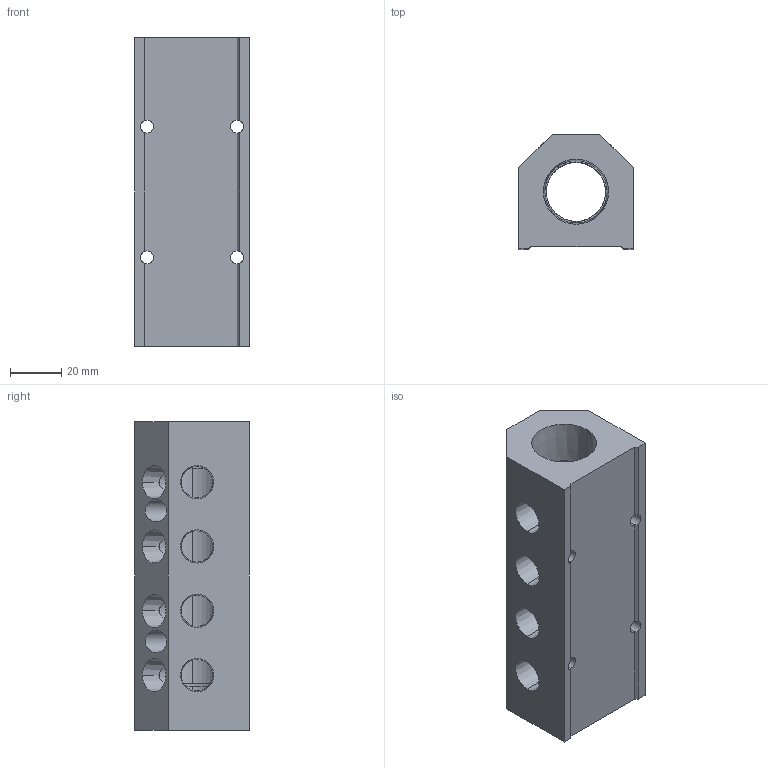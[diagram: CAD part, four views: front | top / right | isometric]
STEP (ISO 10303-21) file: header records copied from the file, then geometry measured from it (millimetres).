
FILE_DESCRIPTION (( 'STEP AP214' ), '1' );
FILE_NAME ('ALM4ABC-N4N12-120R.step', '2022-02-06T14:06:01', ( '' ), ( '' ), 'SwSTEP 2.0', 'SolidWorks 2020', '' );
FILE_SCHEMA (( 'AUTOMOTIVE_DESIGN' ));
Length unit declared in the file: millimetre
Products named in the file (1): ALM4ABC-N4N12-120R
Bounding box: 44.5 x 44.5 x 120 mm (x, y, z)
Volume: 140795 mm3; surface area: 35590.1 mm2
Topology: 1 solids, 1 shells, 337 faces, 932 edges, 618 vertices
Faces by surface type: plane 227, bspline 50, cone 34, cylinder 26
Entity records: 18144 total; most frequent: CARTESIAN_POINT 6930, ORIENTED_EDGE 1864, DIRECTION 1380, EDGE_CURVE 932, LINE 652, VECTOR 652, VERTEX_POINT 618, EDGE_LOOP 392
